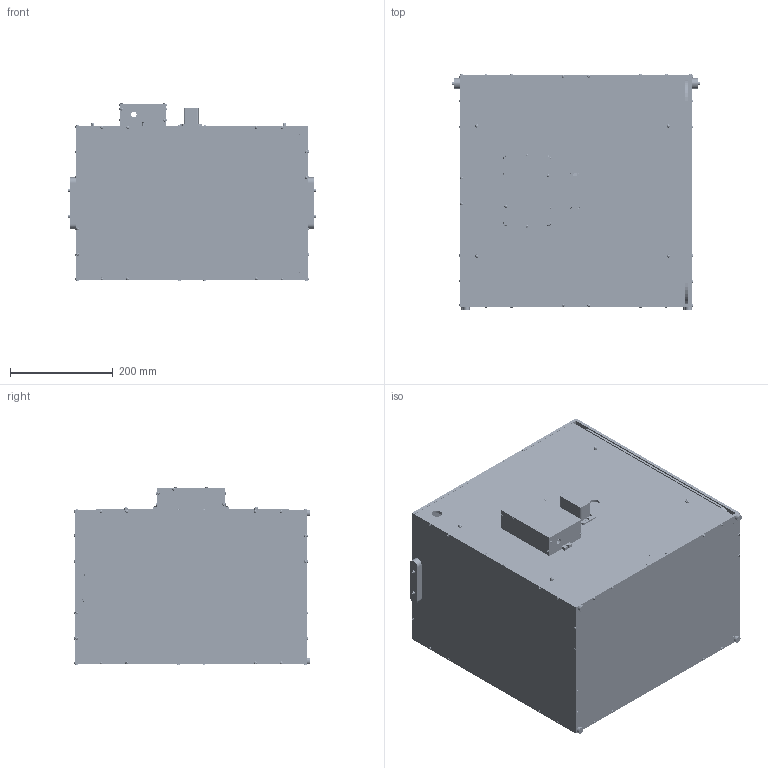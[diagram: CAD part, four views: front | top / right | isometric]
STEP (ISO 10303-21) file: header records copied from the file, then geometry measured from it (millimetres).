
FILE_DESCRIPTION(/* description */ (''),/* implementation_level */ '2;1');
FILE_NAME(/* name */ '/Users/leslieshaw/Desktop/SF_1.6_3D_Model.step',/* time_stamp */ '2020-05-11T12:40:49-07:00',/* author */ (''),/* organization */ (''),/* preprocessor_version */ 'ST-DEVELOPER v18.1',/* originating_system */ 'Autodesk Translation Framework v9.2.0.1227',/* authorisation */ '');
FILE_SCHEMA (('AUTOMOTIVE_DESIGN { 1 0 10303 214 3 1 1 }'));
Products named in the file (55): SF_1.6_3D_Model; Quarter_scale_servo v1; Component65; light screws 90272A108_ZINC-PLTD STL PAN HEAD PHILLIPS MACHINE SCREW 
v1; light screws 90272A108_ZINC-PLTD STL PAN HEAD PHILLIPS MACHINE SCREW 
v1 (1); light screws 90272A108_ZINC-PLTD STL PAN HEAD PHILLIPS MACHINE SCREW 
v1 (2); light screws 90272A108_ZINC-PLTD STL PAN HEAD PHILLIPS MACHINE SCREW 
v1 (3); Sensor Fusion box rev. 1; motor plate v1; Right; Bottom; Left ; Front; Rail on Bottom; Sliding Door; Handle (front); Handle bottom (front); Top; Rail on Top (1); Handle (front) (1); Handle bottom (front) (1); Back (1); handle1 91251A150_BLACK-OXIDE ALLOY STEEL SOCKET HEAD CAP SCREW v1; handle1 91251A150_BLACK-OXIDE ALLOY STEEL SOCKET HEAD CAP SCREW v1 (1
); handle1 91251A150_BLACK-OXIDE ALLOY STEEL SOCKET HEAD CAP SCREW v1 (2
); handle1 91251A150_BLACK-OXIDE ALLOY STEEL SOCKET HEAD CAP SCREW v1 (3
); Light1; Hook1; Hook2; Light1 (1); Hook1 (1); Hook2 (1); Vinyl Right; Vinyl Back; Vinyl Front; Vinyl Left; Vinyl Bottom; 90935A135_PAN HEAD PHILLIPS SCREW FOR SHEET METAL v1; 91249A119; 90272A148 ...
Assembly tree (151 placements, depth 4):
  SF_1.6_3D_Model
    Quarter_scale_servo v1
      Component65
    light screws 90272A108_ZINC-PLTD STL PAN HEAD PHILLIPS MACHINE SCREW 
v1
    light screws 90272A108_ZINC-PLTD STL PAN HEAD PHILLIPS MACHINE SCREW 
v1 (1)
    light screws 90272A108_ZINC-PLTD STL PAN HEAD PHILLIPS MACHINE SCREW 
v1 (2)
    light screws 90272A108_ZINC-PLTD STL PAN HEAD PHILLIPS MACHINE SCREW 
v1 (3)
    Sensor Fusion box rev. 1
      motor plate v1
      Right
      Bottom
      Left 
      Front
      Rail on Bottom
      Sliding Door
      Handle (front)
      Handle bottom (front)
      Top
      Rail on Top (1)
      Handle (front) (1)
      Handle bottom (front) (1)
      Back (1)
    handle1 91251A150_BLACK-OXIDE ALLOY STEEL SOCKET HEAD CAP SCREW v1
    handle1 91251A150_BLACK-OXIDE ALLOY STEEL SOCKET HEAD CAP SCREW v1 (1
)
    handle1 91251A150_BLACK-OXIDE ALLOY STEEL SOCKET HEAD CAP SCREW v1 (2
)
    handle1 91251A150_BLACK-OXIDE ALLOY STEEL SOCKET HEAD CAP SCREW v1 (3
)
    Light1
    Hook1
    Hook2
    Light1 (1)
    Hook1 (1)
    Hook2 (1)
    Vinyl Right
    Vinyl Back
    Vinyl Front
    Vinyl Bottom  x2
    Vinyl Left
    90935A135_PAN HEAD PHILLIPS SCREW FOR SHEET METAL v1  x76
    91875A105  x6
    91249A119  x2
    90272A148  x4
    servo control box abs v10
    Feet1
    Feet4
    Feet3
    Feet2
    Phone Fixture Rev. 2.1
      94320A644_SLOTTED HEAD NYLON THUMB SCREW v1  x6
      4 - 24 servo 90190A108_PAN HEAD PHILLIPS SCREW FOR SHEET METAL v1
      9657K286_STEEL COMPRESSION SPRING v1  x6
      roundtable mount v10
        plate
      525118
      99022A101_18-8 SS CAP NUT  x2
      91249A119_BLACK-OXIDE FNSH PAN HEAD PHIL MACHINE SCREW  x2
Bounding box: 481.04 x 458.52 x 347.38 mm (x, y, z)
Volume: 7388559.7 mm3; surface area: 4189729.6 mm2
Topology: 161 solids, 161 shells, 9297 faces, 26372 edges, 17608 vertices
Faces by surface type: cylinder 3762, plane 2839, bspline 1749, cone 757, torus 101, sphere 89
Full cylindrical faces by diameter (mm): 1.699 x767, 2.02 x212, 2.474 x136, 2.5 x81, 2.702 x4, 2.705 x21, 2.845 x825, 3 x36, 3.135 x6, 3.505 x160, 3.556 x4, 4.7 x150, 5 x6, 5.035 x20, 5.563 x8, 5.715 x1, 5.74 x4, 6.35 x138, 6.5 x6, 6.523 x1, 6.858 x10, 7 x2, 7.366 x1, 10.922 x1, 11 x1, 12.7 x2, 13.856 x1, 20 x3
Entity records: 156772 total; most frequent: CARTESIAN_POINT 98444, ORIENTED_EDGE 12414, DIRECTION 10850, EDGE_CURVE 6207, VERTEX_POINT 4116, AXIS2_PLACEMENT_3D 3935, LINE 2980, VECTOR 2980
